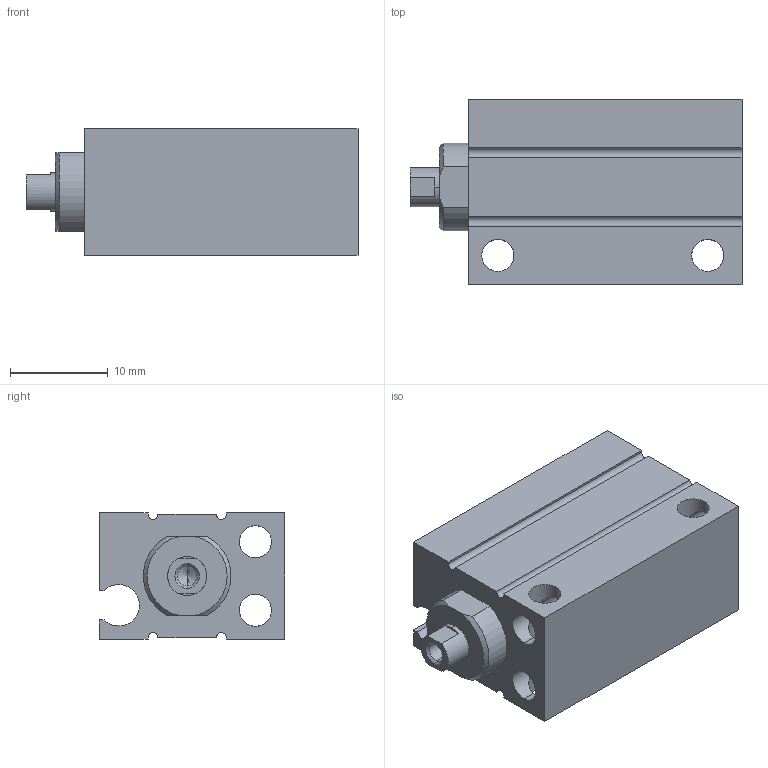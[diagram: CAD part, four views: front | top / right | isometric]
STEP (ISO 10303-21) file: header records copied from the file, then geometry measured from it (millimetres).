
FILE_DESCRIPTION (( 'STEP AP203' ), '1' );
FILE_NAME ('CLJB6-15.STEP', '2020-07-30T18:42:54', ( '' ), ( '' ), 'SwSTEP 2.0', 'SolidWorks 2019', '' );
FILE_SCHEMA (( 'CONFIG_CONTROL_DESIGN' ));
Length unit declared in the file: millimetre
Products named in the file (1): CLJB6-15
Bounding box: 34 x 19 x 13 mm (x, y, z)
Volume: 5702.5 mm3; surface area: 4151.6 mm2
Topology: 2 solids, 2 shells, 92 faces, 240 edges, 145 vertices
Faces by surface type: cylinder 49, plane 29, cone 14
Entity records: 2863 total; most frequent: CARTESIAN_POINT 580, ORIENTED_EDGE 468, DIRECTION 462, EDGE_CURVE 234, AXIS2_PLACEMENT_3D 171, VERTEX_POINT 145, LINE 120, VECTOR 120
